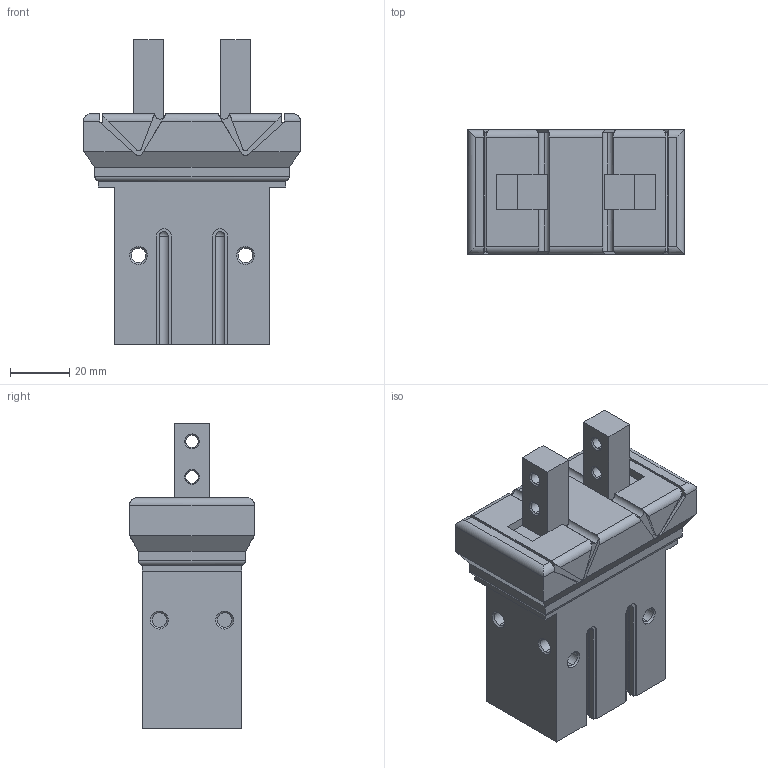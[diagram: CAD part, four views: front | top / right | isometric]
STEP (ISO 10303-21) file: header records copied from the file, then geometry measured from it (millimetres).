
FILE_DESCRIPTION (( 'STEP AP203' ), '1' );
FILE_NAME ('CHZJ2-25D.STEP', '2021-06-14T18:56:54', ( '' ), ( '' ), 'SwSTEP 2.0', 'SolidWorks 2019', '' );
FILE_SCHEMA (( 'CONFIG_CONTROL_DESIGN' ));
Length unit declared in the file: millimetre
Products named in the file (1): CHZJ2-25D
Bounding box: 73 x 42 x 102.7 mm (x, y, z)
Volume: 157919.8 mm3; surface area: 28002 mm2
Topology: 3 solids, 3 shells, 259 faces, 662 edges, 418 vertices
Faces by surface type: plane 113, cylinder 98, cone 44, sphere 4
Entity records: 7897 total; most frequent: CARTESIAN_POINT 1498, DIRECTION 1356, ORIENTED_EDGE 1304, EDGE_CURVE 652, AXIS2_PLACEMENT_3D 478, VERTEX_POINT 412, VECTOR 400, LINE 400
